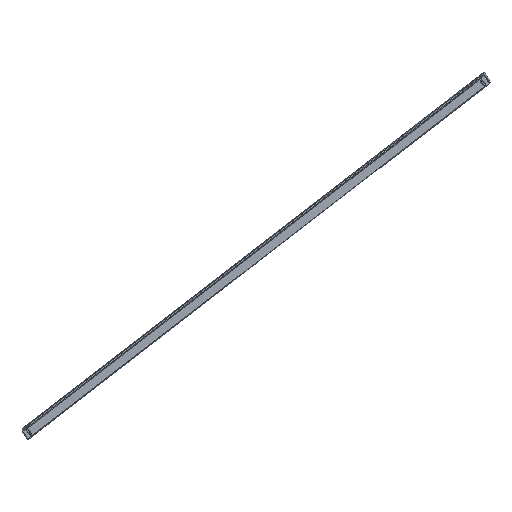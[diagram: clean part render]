
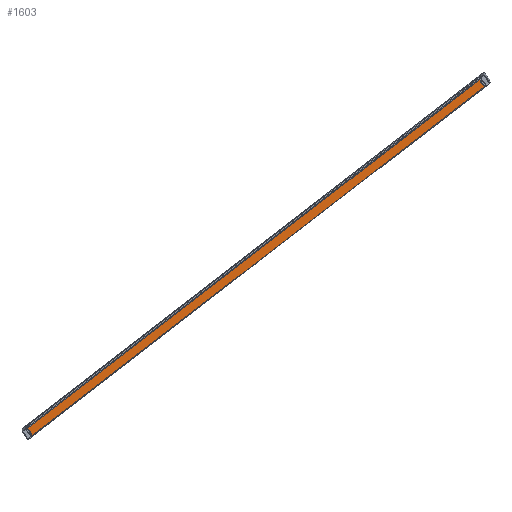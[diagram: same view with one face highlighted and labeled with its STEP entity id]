
A CAD part, left-side view. The second image highlights one B-rep face of the part: STEP entity #1603.
In plain terms, the highlighted planar face has unit normal (-1, -0.001, -0.012) as drawn and (0, 0, -1) by its records, which use the part's own axes.
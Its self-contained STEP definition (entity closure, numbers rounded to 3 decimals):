
#137 = CARTESIAN_POINT ( 'NONE',  ( 14.5, 979.5, 0. ) ) ;
#224 = DIRECTION ( 'NONE',  ( 0., -1., 0. ) ) ;
#238 = CARTESIAN_POINT ( 'NONE',  ( 14.5, 982., 0. ) ) ;
#313 = CARTESIAN_POINT ( 'NONE',  ( -14.5, -10802., 0. ) ) ;
#365 = CARTESIAN_POINT ( 'NONE',  ( 17., -979.5, 0. ) ) ;
#1008 = DIRECTION ( 'NONE',  ( -1., 0., 0. ) ) ;
#1388 = EDGE_CURVE ( 'NONE', #1408, #5804, #2546, .T. ) ;
#1390 = EDGE_CURVE ( 'NONE', #5804, #6543, #2580, .T. ) ;
#1401 = EDGE_CURVE ( 'NONE', #6543, #7865, #2659, .T. ) ;
#1408 = VERTEX_POINT ( 'NONE', #137 ) ;
#1414 = EDGE_CURVE ( 'NONE', #7865, #1408, #2490, .T. ) ;
#1603 = ADVANCED_FACE ( 'NONE', ( #1838 ), #7146, .F. ) ;
#1838 = FACE_OUTER_BOUND ( 'NONE', #8809, .T. ) ;
#2156 = CARTESIAN_POINT ( 'NONE',  ( -17., 979.5, 0. ) ) ;
#2479 = VECTOR ( 'NONE', #3512, 1000. ) ;
#2490 = LINE ( 'NONE', #2156, #2479 ) ;
#2497 = VECTOR ( 'NONE', #8388, 1000. ) ;
#2533 = VECTOR ( 'NONE', #1008, 1000. ) ;
#2546 = LINE ( 'NONE', #238, #2555 ) ;
#2555 = VECTOR ( 'NONE', #224, 1000. ) ;
#2580 = LINE ( 'NONE', #365, #2533 ) ;
#2659 = LINE ( 'NONE', #313, #2497 ) ;
#2841 = CARTESIAN_POINT ( 'NONE',  ( -14.5, 979.5, 0. ) ) ;
#3432 = DIRECTION ( 'NONE',  ( 0., 0., 1. ) ) ;
#3512 = DIRECTION ( 'NONE',  ( 1., 0., 0. ) ) ;
#3894 = ORIENTED_EDGE ( 'NONE', *, *, #1388, .T. ) ;
#3913 = ORIENTED_EDGE ( 'NONE', *, *, #1390, .T. ) ;
#3933 = ORIENTED_EDGE ( 'NONE', *, *, #1401, .T. ) ;
#3942 = ORIENTED_EDGE ( 'NONE', *, *, #1414, .T. ) ;
#5072 = CARTESIAN_POINT ( 'NONE',  ( -14.5, -979.5, 0. ) ) ;
#5804 = VERTEX_POINT ( 'NONE', #8196 ) ;
#6543 = VERTEX_POINT ( 'NONE', #5072 ) ;
#7146 = PLANE ( 'NONE',  #7340 ) ;
#7340 = AXIS2_PLACEMENT_3D ( 'NONE', #8791, #3432, #7460 ) ;
#7460 = DIRECTION ( 'NONE',  ( 1., 0., 0. ) ) ;
#7865 = VERTEX_POINT ( 'NONE', #2841 ) ;
#8196 = CARTESIAN_POINT ( 'NONE',  ( 14.5, -979.5, 0. ) ) ;
#8388 = DIRECTION ( 'NONE',  ( 0., 1., 0. ) ) ;
#8791 = CARTESIAN_POINT ( 'NONE',  ( -17., -982., 0. ) ) ;
#8809 = EDGE_LOOP ( 'NONE', ( #3894, #3913, #3933, #3942 ) ) ;
